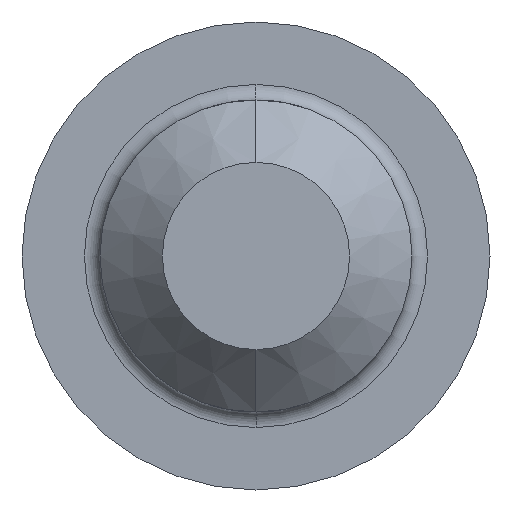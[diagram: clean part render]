
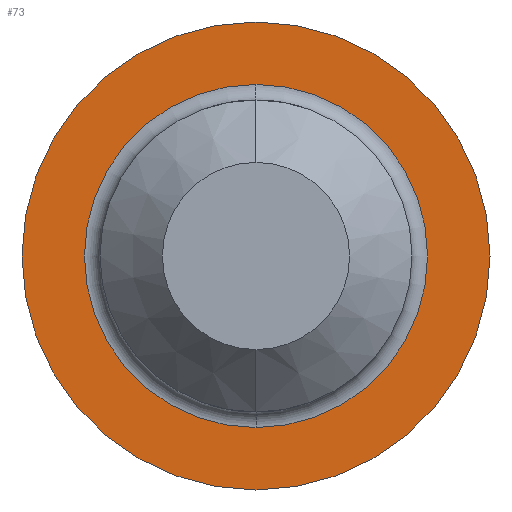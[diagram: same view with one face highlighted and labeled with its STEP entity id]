
A CAD part, left-side view. The second image highlights one B-rep face of the part: STEP entity #73.
In plain terms, the highlighted planar face has unit normal (-1, 0, 0).
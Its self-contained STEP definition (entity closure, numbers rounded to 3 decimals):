
#8 = EDGE_CURVE ( 'NONE', #21, #29, #135, .T. ) ;
#21 = VERTEX_POINT ( 'NONE', #162 ) ;
#29 = VERTEX_POINT ( 'NONE', #222 ) ;
#52 = ORIENTED_EDGE ( 'NONE', *, *, #60, .T. ) ;
#56 = EDGE_CURVE ( 'NONE', #115, #108, #335, .T. ) ;
#60 = EDGE_CURVE ( 'NONE', #29, #21, #329, .T. ) ;
#63 = ORIENTED_EDGE ( 'NONE', *, *, #56, .T. ) ;
#64 = EDGE_LOOP ( 'NONE', ( #63, #68 ) ) ;
#68 = ORIENTED_EDGE ( 'NONE', *, *, #114, .T. ) ;
#71 = EDGE_LOOP ( 'NONE', ( #72, #52 ) ) ;
#72 = ORIENTED_EDGE ( 'NONE', *, *, #8, .T. ) ;
#73 = ADVANCED_FACE ( 'NONE', ( #249, #248 ), #262, .F. ) ;
#108 = VERTEX_POINT ( 'NONE', #425 ) ;
#114 = EDGE_CURVE ( 'NONE', #108, #115, #426, .T. ) ;
#115 = VERTEX_POINT ( 'NONE', #432 ) ;
#135 = CIRCLE ( 'NONE', #234, 4.5 ) ;
#162 = CARTESIAN_POINT ( 'NONE',  ( 0., 0., 4.5 ) ) ;
#174 = DIRECTION ( 'NONE',  ( 0., 0., 1. ) ) ;
#175 = DIRECTION ( 'NONE',  ( -1., 0., 0. ) ) ;
#176 = CARTESIAN_POINT ( 'NONE',  ( 0., 0., 0. ) ) ;
#222 = CARTESIAN_POINT ( 'NONE',  ( 0., 0., -4.5 ) ) ;
#234 = AXIS2_PLACEMENT_3D ( 'NONE', #176, #175, #174 ) ;
#241 = DIRECTION ( 'NONE',  ( 0., 0., -1. ) ) ;
#242 = DIRECTION ( 'NONE',  ( 1., 0., 0. ) ) ;
#247 = CARTESIAN_POINT ( 'NONE',  ( 0., 4.5, 0. ) ) ;
#248 = FACE_OUTER_BOUND ( 'NONE', #71, .T. ) ;
#249 = FACE_BOUND ( 'NONE', #64, .T. ) ;
#258 = DIRECTION ( 'NONE',  ( 0., 0., 1. ) ) ;
#259 = DIRECTION ( 'NONE',  ( -1., 0., 0. ) ) ;
#260 = CARTESIAN_POINT ( 'NONE',  ( 0., 0., 0. ) ) ;
#262 = PLANE ( 'NONE',  #334 ) ;
#328 = AXIS2_PLACEMENT_3D ( 'NONE', #260, #259, #258 ) ;
#329 = CIRCLE ( 'NONE', #328, 4.5 ) ;
#330 = DIRECTION ( 'NONE',  ( 0., 0., -1. ) ) ;
#331 = DIRECTION ( 'NONE',  ( 1., 0., 0. ) ) ;
#332 = AXIS2_PLACEMENT_3D ( 'NONE', #354, #331, #330 ) ;
#334 = AXIS2_PLACEMENT_3D ( 'NONE', #247, #242, #241 ) ;
#335 = CIRCLE ( 'NONE', #332, 3.3 ) ;
#354 = CARTESIAN_POINT ( 'NONE',  ( 0., 0., 0. ) ) ;
#425 = CARTESIAN_POINT ( 'NONE',  ( 0., 0., 3.3 ) ) ;
#426 = CIRCLE ( 'NONE', #517, 3.3 ) ;
#432 = CARTESIAN_POINT ( 'NONE',  ( 0., 0., -3.3 ) ) ;
#514 = DIRECTION ( 'NONE',  ( 0., 0., -1. ) ) ;
#515 = DIRECTION ( 'NONE',  ( 1., 0., 0. ) ) ;
#516 = CARTESIAN_POINT ( 'NONE',  ( 0., 0., 0. ) ) ;
#517 = AXIS2_PLACEMENT_3D ( 'NONE', #516, #515, #514 ) ;
